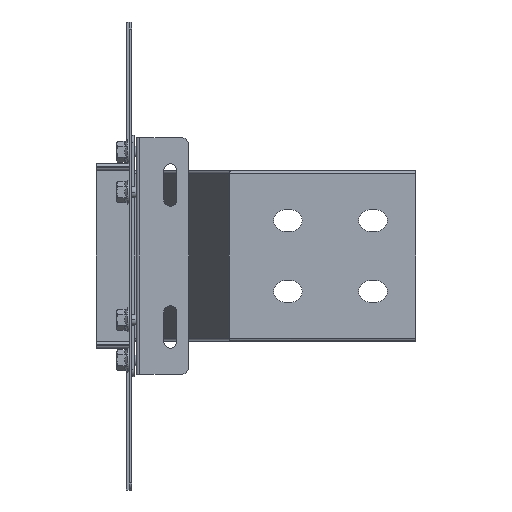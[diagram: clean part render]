
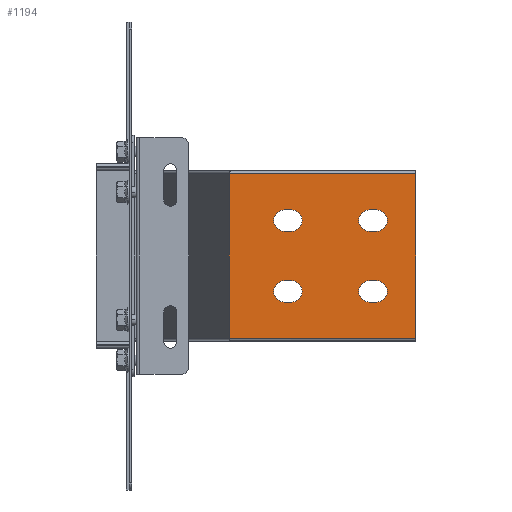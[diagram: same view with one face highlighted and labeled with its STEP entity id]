
A CAD part, front view. The second image highlights one B-rep face of the part: STEP entity #1194.
In plain terms, the highlighted planar face has unit normal (0, -1, 0).
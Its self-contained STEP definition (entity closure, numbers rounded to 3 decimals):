
#1018=AXIS2_PLACEMENT_3D('Circle Axis2P3D',#1016,#1017,$) ;
#1038=AXIS2_PLACEMENT_3D('Plane Axis2P3D',#1035,#1036,#1037) ;
#1076=AXIS2_PLACEMENT_3D('Circle Axis2P3D',#1074,#1075,$) ;
#1094=AXIS2_PLACEMENT_3D('Circle Axis2P3D',#1092,#1093,$) ;
#1110=AXIS2_PLACEMENT_3D('Circle Axis2P3D',#1108,#1109,$) ;
#1128=AXIS2_PLACEMENT_3D('Circle Axis2P3D',#1126,#1127,$) ;
#1144=AXIS2_PLACEMENT_3D('Circle Axis2P3D',#1142,#1143,$) ;
#1171=AXIS2_PLACEMENT_3D('Circle Axis2P3D',#1169,#1170,$) ;
#1185=AXIS2_PLACEMENT_3D('Circle Axis2P3D',#1183,#1184,$) ;
#982=CARTESIAN_POINT('Vertex',(112.5,-151.95,32.5)) ;
#985=CARTESIAN_POINT('Line Origine',(110.,-151.95,32.5)) ;
#989=CARTESIAN_POINT('Vertex',(107.5,-151.95,32.5)) ;
#1016=CARTESIAN_POINT('Axis2P3D Location',(107.5,-151.95,25.)) ;
#1020=CARTESIAN_POINT('Vertex',(107.5,-151.95,17.5)) ;
#1035=CARTESIAN_POINT('Axis2P3D Location',(200.,-151.95,-58.05)) ;
#1040=CARTESIAN_POINT('Line Origine',(134.352,-151.95,-58.05)) ;
#1044=CARTESIAN_POINT('Vertex',(200.,-151.95,-58.05)) ;
#1046=CARTESIAN_POINT('Vertex',(68.703,-151.95,-58.05)) ;
#1049=CARTESIAN_POINT('Line Origine',(200.,-151.95,0.)) ;
#1053=CARTESIAN_POINT('Vertex',(200.,-151.95,58.05)) ;
#1056=CARTESIAN_POINT('Line Origine',(134.352,-151.95,58.05)) ;
#1060=CARTESIAN_POINT('Vertex',(68.703,-151.95,58.05)) ;
#1063=CARTESIAN_POINT('Line Origine',(68.703,-151.95,0.)) ;
#1074=CARTESIAN_POINT('Axis2P3D Location',(112.5,-151.95,25.)) ;
#1078=CARTESIAN_POINT('Vertex',(112.5,-151.95,17.5)) ;
#1081=CARTESIAN_POINT('Line Origine',(110.,-151.95,17.5)) ;
#1092=CARTESIAN_POINT('Axis2P3D Location',(172.5,-151.95,25.)) ;
#1096=CARTESIAN_POINT('Vertex',(172.5,-151.95,17.5)) ;
#1098=CARTESIAN_POINT('Vertex',(172.5,-151.95,32.5)) ;
#1101=CARTESIAN_POINT('Line Origine',(170.,-151.95,17.5)) ;
#1105=CARTESIAN_POINT('Vertex',(167.5,-151.95,17.5)) ;
#1108=CARTESIAN_POINT('Axis2P3D Location',(167.5,-151.95,25.)) ;
#1112=CARTESIAN_POINT('Vertex',(167.5,-151.95,32.5)) ;
#1115=CARTESIAN_POINT('Line Origine',(170.,-151.95,32.5)) ;
#1126=CARTESIAN_POINT('Axis2P3D Location',(107.5,-151.95,-25.)) ;
#1130=CARTESIAN_POINT('Vertex',(107.5,-151.95,-17.5)) ;
#1132=CARTESIAN_POINT('Vertex',(107.5,-151.95,-32.5)) ;
#1135=CARTESIAN_POINT('Line Origine',(110.,-151.95,-17.5)) ;
#1139=CARTESIAN_POINT('Vertex',(112.5,-151.95,-17.5)) ;
#1142=CARTESIAN_POINT('Axis2P3D Location',(112.5,-151.95,-25.)) ;
#1146=CARTESIAN_POINT('Vertex',(112.5,-151.95,-32.5)) ;
#1149=CARTESIAN_POINT('Line Origine',(110.,-151.95,-32.5)) ;
#1160=CARTESIAN_POINT('Line Origine',(170.,-151.95,-17.5)) ;
#1164=CARTESIAN_POINT('Vertex',(172.5,-151.95,-17.5)) ;
#1166=CARTESIAN_POINT('Vertex',(167.5,-151.95,-17.5)) ;
#1169=CARTESIAN_POINT('Axis2P3D Location',(172.5,-151.95,-25.)) ;
#1173=CARTESIAN_POINT('Vertex',(172.5,-151.95,-32.5)) ;
#1176=CARTESIAN_POINT('Line Origine',(170.,-151.95,-32.5)) ;
#1180=CARTESIAN_POINT('Vertex',(167.5,-151.95,-32.5)) ;
#1183=CARTESIAN_POINT('Axis2P3D Location',(167.5,-151.95,-25.)) ;
#986=DIRECTION('Vector Direction',(1.,0.,0.)) ;
#1017=DIRECTION('Axis2P3D Direction',(0.,-1.,0.)) ;
#1036=DIRECTION('Axis2P3D Direction',(0.,-1.,0.)) ;
#1037=DIRECTION('Axis2P3D XDirection',(0.,0.,1.)) ;
#1041=DIRECTION('Vector Direction',(-1.,0.,0.)) ;
#1050=DIRECTION('Vector Direction',(0.,0.,1.)) ;
#1057=DIRECTION('Vector Direction',(-1.,0.,0.)) ;
#1064=DIRECTION('Vector Direction',(0.,0.,1.)) ;
#1075=DIRECTION('Axis2P3D Direction',(0.,-1.,0.)) ;
#1082=DIRECTION('Vector Direction',(-1.,0.,0.)) ;
#1093=DIRECTION('Axis2P3D Direction',(0.,-1.,0.)) ;
#1102=DIRECTION('Vector Direction',(1.,0.,0.)) ;
#1109=DIRECTION('Axis2P3D Direction',(0.,-1.,0.)) ;
#1116=DIRECTION('Vector Direction',(-1.,0.,0.)) ;
#1127=DIRECTION('Axis2P3D Direction',(0.,-1.,0.)) ;
#1136=DIRECTION('Vector Direction',(-1.,0.,0.)) ;
#1143=DIRECTION('Axis2P3D Direction',(0.,-1.,0.)) ;
#1150=DIRECTION('Vector Direction',(1.,0.,0.)) ;
#1161=DIRECTION('Vector Direction',(1.,0.,0.)) ;
#1170=DIRECTION('Axis2P3D Direction',(0.,-1.,0.)) ;
#1177=DIRECTION('Vector Direction',(-1.,0.,0.)) ;
#1184=DIRECTION('Axis2P3D Direction',(0.,-1.,0.)) ;
#987=VECTOR('Line Direction',#986,1.) ;
#1042=VECTOR('Line Direction',#1041,1.) ;
#1051=VECTOR('Line Direction',#1050,1.) ;
#1058=VECTOR('Line Direction',#1057,1.) ;
#1065=VECTOR('Line Direction',#1064,1.) ;
#1083=VECTOR('Line Direction',#1082,1.) ;
#1103=VECTOR('Line Direction',#1102,1.) ;
#1117=VECTOR('Line Direction',#1116,1.) ;
#1137=VECTOR('Line Direction',#1136,1.) ;
#1151=VECTOR('Line Direction',#1150,1.) ;
#1162=VECTOR('Line Direction',#1161,1.) ;
#1178=VECTOR('Line Direction',#1177,1.) ;
#1069=ORIENTED_EDGE('',*,*,#1048,.F.) ;
#1070=ORIENTED_EDGE('',*,*,#1055,.F.) ;
#1071=ORIENTED_EDGE('',*,*,#1062,.T.) ;
#1072=ORIENTED_EDGE('',*,*,#1067,.F.) ;
#1087=ORIENTED_EDGE('',*,*,#1080,.F.) ;
#1088=ORIENTED_EDGE('',*,*,#1085,.F.) ;
#1089=ORIENTED_EDGE('',*,*,#1022,.F.) ;
#1090=ORIENTED_EDGE('',*,*,#991,.F.) ;
#1121=ORIENTED_EDGE('',*,*,#1100,.F.) ;
#1122=ORIENTED_EDGE('',*,*,#1107,.F.) ;
#1123=ORIENTED_EDGE('',*,*,#1114,.F.) ;
#1124=ORIENTED_EDGE('',*,*,#1119,.F.) ;
#1155=ORIENTED_EDGE('',*,*,#1134,.F.) ;
#1156=ORIENTED_EDGE('',*,*,#1141,.F.) ;
#1157=ORIENTED_EDGE('',*,*,#1148,.F.) ;
#1158=ORIENTED_EDGE('',*,*,#1153,.F.) ;
#1189=ORIENTED_EDGE('',*,*,#1168,.F.) ;
#1190=ORIENTED_EDGE('',*,*,#1175,.F.) ;
#1191=ORIENTED_EDGE('',*,*,#1182,.F.) ;
#1192=ORIENTED_EDGE('',*,*,#1187,.F.) ;
#1091=FACE_BOUND('',#1086,.T.) ;
#1125=FACE_BOUND('',#1120,.T.) ;
#1159=FACE_BOUND('',#1154,.T.) ;
#1193=FACE_BOUND('',#1188,.T.) ;
#1194=ADVANCED_FACE('N',(#1073,#1091,#1125,#1159,#1193),#1039,.T.) ;
#1019=CIRCLE('generated circle',#1018,7.5) ;
#1077=CIRCLE('generated circle',#1076,7.5) ;
#1095=CIRCLE('generated circle',#1094,7.5) ;
#1111=CIRCLE('generated circle',#1110,7.5) ;
#1129=CIRCLE('generated circle',#1128,7.5) ;
#1145=CIRCLE('generated circle',#1144,7.5) ;
#1172=CIRCLE('generated circle',#1171,7.5) ;
#1186=CIRCLE('generated circle',#1185,7.5) ;
#991=EDGE_CURVE('',#983,#990,#988,.F.) ;
#1022=EDGE_CURVE('',#990,#1021,#1019,.T.) ;
#1048=EDGE_CURVE('',#1045,#1047,#1043,.T.) ;
#1055=EDGE_CURVE('',#1054,#1045,#1052,.F.) ;
#1062=EDGE_CURVE('',#1054,#1061,#1059,.T.) ;
#1067=EDGE_CURVE('',#1047,#1061,#1066,.T.) ;
#1080=EDGE_CURVE('',#1079,#983,#1077,.T.) ;
#1085=EDGE_CURVE('',#1021,#1079,#1084,.F.) ;
#1100=EDGE_CURVE('',#1097,#1099,#1095,.T.) ;
#1107=EDGE_CURVE('',#1106,#1097,#1104,.T.) ;
#1114=EDGE_CURVE('',#1113,#1106,#1111,.T.) ;
#1119=EDGE_CURVE('',#1099,#1113,#1118,.T.) ;
#1134=EDGE_CURVE('',#1131,#1133,#1129,.T.) ;
#1141=EDGE_CURVE('',#1140,#1131,#1138,.T.) ;
#1148=EDGE_CURVE('',#1147,#1140,#1145,.T.) ;
#1153=EDGE_CURVE('',#1133,#1147,#1152,.T.) ;
#1168=EDGE_CURVE('',#1165,#1167,#1163,.F.) ;
#1175=EDGE_CURVE('',#1174,#1165,#1172,.T.) ;
#1182=EDGE_CURVE('',#1181,#1174,#1179,.F.) ;
#1187=EDGE_CURVE('',#1167,#1181,#1186,.T.) ;
#1068=EDGE_LOOP('',(#1069,#1070,#1071,#1072)) ;
#1086=EDGE_LOOP('',(#1087,#1088,#1089,#1090)) ;
#1120=EDGE_LOOP('',(#1121,#1122,#1123,#1124)) ;
#1154=EDGE_LOOP('',(#1155,#1156,#1157,#1158)) ;
#1188=EDGE_LOOP('',(#1189,#1190,#1191,#1192)) ;
#1073=FACE_OUTER_BOUND('',#1068,.T.) ;
#988=LINE('Line',#985,#987) ;
#1043=LINE('Line',#1040,#1042) ;
#1052=LINE('Line',#1049,#1051) ;
#1059=LINE('Line',#1056,#1058) ;
#1066=LINE('Line',#1063,#1065) ;
#1084=LINE('Line',#1081,#1083) ;
#1104=LINE('Line',#1101,#1103) ;
#1118=LINE('Line',#1115,#1117) ;
#1138=LINE('Line',#1135,#1137) ;
#1152=LINE('Line',#1149,#1151) ;
#1163=LINE('Line',#1160,#1162) ;
#1179=LINE('Line',#1176,#1178) ;
#1039=PLANE('',#1038) ;
#983=VERTEX_POINT('',#982) ;
#990=VERTEX_POINT('',#989) ;
#1021=VERTEX_POINT('',#1020) ;
#1045=VERTEX_POINT('',#1044) ;
#1047=VERTEX_POINT('',#1046) ;
#1054=VERTEX_POINT('',#1053) ;
#1061=VERTEX_POINT('',#1060) ;
#1079=VERTEX_POINT('',#1078) ;
#1097=VERTEX_POINT('',#1096) ;
#1099=VERTEX_POINT('',#1098) ;
#1106=VERTEX_POINT('',#1105) ;
#1113=VERTEX_POINT('',#1112) ;
#1131=VERTEX_POINT('',#1130) ;
#1133=VERTEX_POINT('',#1132) ;
#1140=VERTEX_POINT('',#1139) ;
#1147=VERTEX_POINT('',#1146) ;
#1165=VERTEX_POINT('',#1164) ;
#1167=VERTEX_POINT('',#1166) ;
#1174=VERTEX_POINT('',#1173) ;
#1181=VERTEX_POINT('',#1180) ;
